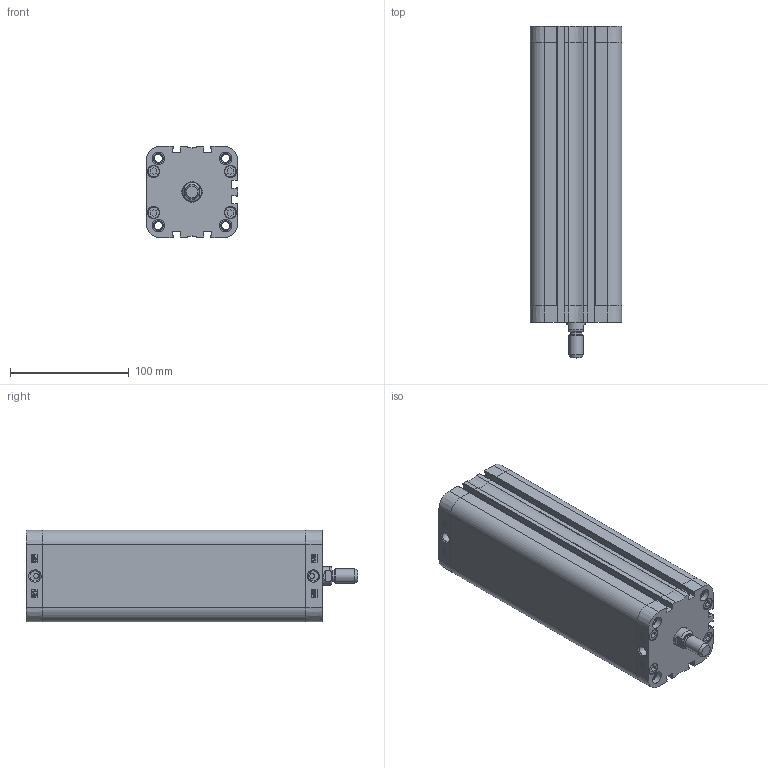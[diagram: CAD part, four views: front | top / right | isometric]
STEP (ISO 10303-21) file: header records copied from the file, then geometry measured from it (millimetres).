
FILE_DESCRIPTION((''),'2;1');
FILE_NAME('T:\Archivio Inventor\- CATALOGHI 2012\SERIE P - NUOVA\PDM\PDM063\PDM063.---.GS.M\PDM063.200.GS.M.stp','2013-02-04T09:32:21',('Administrator'),(''),'Autodesk Inventor 2012','Autodesk Inventor 2012','');
FILE_SCHEMA(('CONFIG_CONTROL_DESIGN'));
Length unit declared in the file: millimetre
Products named in the file (1): PDM063.200.GS.M
Bounding box: 77 x 279 x 77 mm (x, y, z)
Volume: 545053.2 mm3; surface area: 214285 mm2
Topology: 1 solids, 5 shells, 824 faces, 1993 edges, 1252 vertices
Faces by surface type: plane 346, bspline 218, cylinder 142, torus 55, cone 45, sphere 18
Full cylindrical faces by diameter (mm): 4 x2, 6.3 x4, 6.647 x8, 8.047 x4, 8.566 x2, 9.8 x8, 10 x1, 10.3 x8, 10.5 x8, 12 x2, 16 x1, 16.5 x1, 63 x1, 65.4 x1, 65.6 x1
Entity records: 27360 total; most frequent: CARTESIAN_POINT 9112, ORIENTED_EDGE 3744, DIRECTION 3031, EDGE_CURVE 1872, VERTEX_POINT 1231, AXIS2_PLACEMENT_3D 1026, EDGE_LOOP 1003, VECTOR 979
